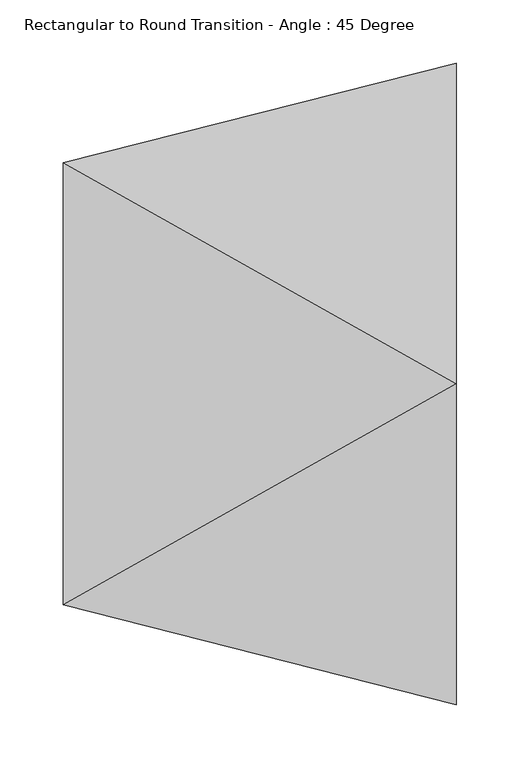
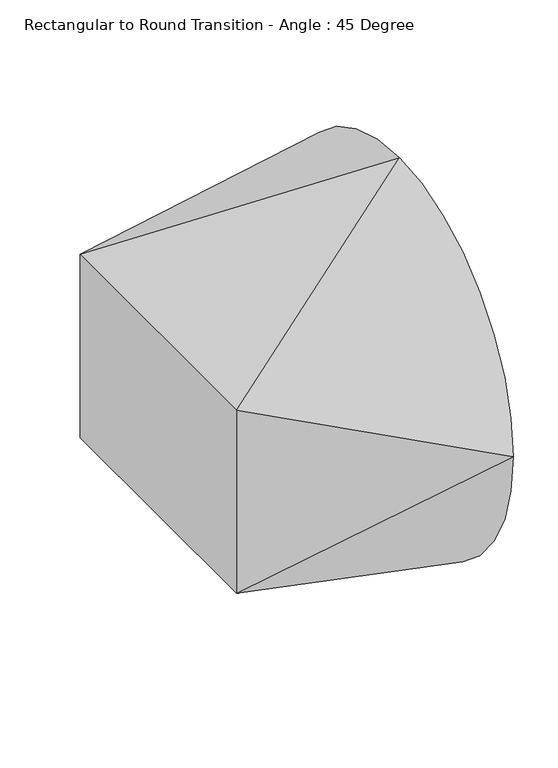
"""IFC4 building model written with IfcOpenShell, lengths in millimetres: duct fitting geometry, Rectangular to Round Transition - Angle : 45 Degree."""

from ifc_helpers import new_model, si_unit, frame, origin, place, context, project, spatial, circle_curve, source, transform, mapped, element, save
from ifc_brep_helpers import plane_surface, spline_surface, advanced_brep


def rectangular_to_round_transition_angle_45_degree_86e8342e(model_context):
    return source(origin(), model_context, "Body", "AdvancedBrep", [
        advanced_brep(
        [(311.4335495, 0.0, 254.0), (311.4335495, -254.0, 0.0), (311.4335495, 0.0, -254.0), (311.4335495, 254.0, 0.0), (0.0, -175.0, 125.0), (0.0, 175.0, 125.0), (0.0, 175.0, -125.0), (0.0, -175.0, -125.0)],
        [
            (0, 1, circle_curve(frame((311.4335495, 0.0, 0.0), z_axis=(1.0, 0.0, 0.0), x_axis=(0.0, 1.0, 0.0)), 254.0)),
            (1, 2, circle_curve(frame((311.4335495, 0.0, 0.0), z_axis=(1.0, 0.0, 0.0), x_axis=(0.0, 1.0, 0.0)), 254.0)),
            (2, 3, circle_curve(frame((311.4335495, 0.0, 0.0), z_axis=(1.0, 0.0, 0.0), x_axis=(0.0, 1.0, 0.0)), 254.0)),
            (3, 0, circle_curve(frame((311.4335495, 0.0, 0.0), z_axis=(1.0, 0.0, 0.0), x_axis=(0.0, 1.0, 0.0)), 254.0)),
            (4, 5),
            (5, 6),
            (6, 7),
            (7, 4),
            (0, 4),
            (4, 1),
            (7, 1),
            (7, 2),
            (6, 2),
            (6, 3),
            (5, 3),
            (5, 0),
        ],
        [
            plane_surface(frame((311.4335495, 0.0, 0.0), z_axis=(1.0, 0.0, 0.0), x_axis=(0.0, 0.0, -1.0))),
            plane_surface(frame((0.0, 0.0, 0.0), z_axis=(-1.0, 0.0, 0.0), x_axis=(0.0, 0.0, -1.0))),
            spline_surface(2, 1, [[(0.0, -175.0, 125.0), (311.4335495, 0.0, 254.0)], [(0.0, -175.0, 125.0), (311.4335495, -254.0, 254.0)], [(0.0, -175.0, 125.0), (311.4335495, -254.0, 0.0)]], [3, 3], [2, 2], [0.0, 1.0], [0.0, 1.0], weights=[[1.0, 1.0], [0.7071067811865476, 0.7071067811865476], [1.0, 1.0]]),
            plane_surface(frame((0.0, -175.0, 0.0), z_axis=(-0.24587831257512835, -0.9693007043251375, 0.0), x_axis=(0.0, 0.0, -1.0))),
            spline_surface(2, 1, [[(0.0, -175.0, -125.0), (311.4335495, -254.0, 0.0)], [(0.0, -175.0, -125.0), (311.4335495, -254.0, -254.0)], [(0.0, -175.0, -125.0), (311.4335495, 0.0, -254.0)]], [3, 3], [2, 2], [0.0, 1.0], [0.0, 1.0], weights=[[1.0, 1.0], [0.7071067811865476, 0.7071067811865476], [1.0, 1.0]]),
            plane_surface(frame((0.0, 0.0, -125.0), z_axis=(-0.3826834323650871, 0.0, -0.9238795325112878), x_axis=(0.0, 1.0, 0.0))),
            spline_surface(2, 1, [[(0.0, 175.0, -125.0), (311.4335495, 0.0, -254.0)], [(0.0, 175.0, -125.0), (311.4335495, 254.0, -254.0)], [(0.0, 175.0, -125.0), (311.4335495, 254.0, 0.0)]], [3, 3], [2, 2], [0.0, 1.0], [0.0, 1.0], weights=[[1.0, 1.0], [0.7071067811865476, 0.7071067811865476], [1.0, 1.0]]),
            plane_surface(frame((0.0, 175.0, 0.0), z_axis=(-0.2458783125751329, 0.9693007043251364, 0.0), x_axis=(0.0, 0.0, 1.0))),
            spline_surface(2, 1, [[(0.0, 175.0, 125.0), (311.4335495, 254.0, 0.0)], [(0.0, 175.0, 125.0), (311.4335495, 254.0, 254.0)], [(0.0, 175.0, 125.0), (311.4335495, 0.0, 254.0)]], [3, 3], [2, 2], [0.0, 1.0], [0.0, 1.0], weights=[[1.0, 1.0], [0.7071067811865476, 0.7071067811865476], [1.0, 1.0]]),
            plane_surface(frame((0.0, 0.0, 125.0), z_axis=(-0.38268343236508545, 0.0, 0.9238795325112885), x_axis=(0.0, -1.0, 0.0))),
        ],
        [
            (0, [[1, 2, 3, 4]]),
            (1, [[5, 6, 7, 8]]),
            (2, [[-1, 9, 10]]),
            (3, [[-8, 11, -10]]),
            (4, [[-2, -11, 12]]),
            (5, [[-7, 13, -12]]),
            (6, [[-3, -13, 14]]),
            (7, [[-6, 15, -14]]),
            (8, [[-4, -15, 16]]),
            (9, [[-5, -9, -16]]),
        ],
    ),
    ])


if __name__ == "__main__":
    model = new_model("IFC4")
    model_context = context("Model", 3, world=origin())
    ifc_project = project(units=[si_unit("LENGTHUNIT", "METRE", prefix="MILLI")], contexts=[model_context])
    site = spatial("IfcSite", under=ifc_project)
    building = spatial("IfcBuilding", under=site)
    placement = place(None, origin())
    rectangular_to_round_transition_angle_45_degree_shape = rectangular_to_round_transition_angle_45_degree_86e8342e(model_context)
    element("IfcDuctFitting", 1, ObjectType="Rectangular to Round Transition - Angle : 45 Degree", at=placement, inside=building, context=model_context, shape_type="MappedRepresentation", body=[
        mapped(rectangular_to_round_transition_angle_45_degree_shape, transform((0.0, 0.0, 0.0), x_axis=(1.0, 0.0, 0.0), y_axis=(0.0, 1.0, 0.0), z_axis=(0.0, 0.0, 1.0))),
    ])
    save(model, "model.ifc")
